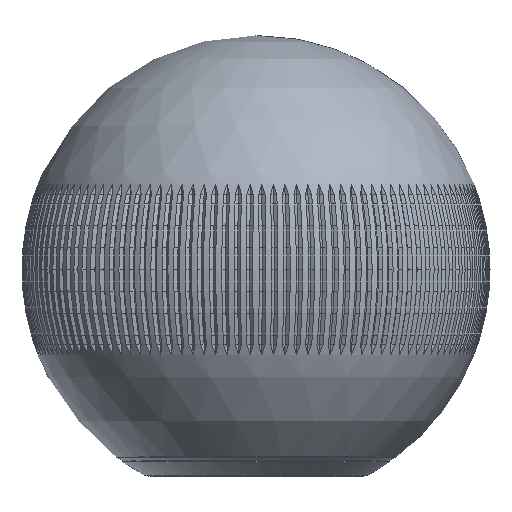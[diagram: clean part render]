
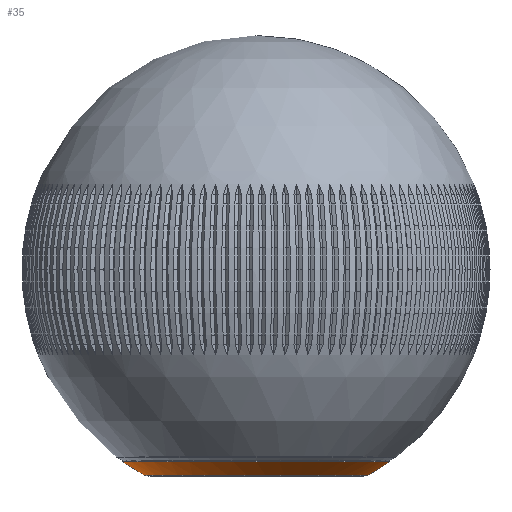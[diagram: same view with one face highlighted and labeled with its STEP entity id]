
A CAD part, front view. The second image highlights one B-rep face of the part: STEP entity #35.
In plain terms, the highlighted spherical face has radius 15 mm.
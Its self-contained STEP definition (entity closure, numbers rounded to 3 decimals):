
#35 = ADVANCED_FACE('',(#36),#51,.T.);
#36 = FACE_BOUND('',#37,.T.);
#37 = EDGE_LOOP('',(#38,#69,#165,#166));
#38 = ORIENTED_EDGE('',*,*,#39,.F.);
#39 = EDGE_CURVE('',#40,#42,#44,.T.);
#40 = VERTEX_POINT('',#41);
#41 = CARTESIAN_POINT('',(7.176,0.,0.095));
#42 = VERTEX_POINT('',#43);
#43 = CARTESIAN_POINT('',(8.567,0.,
    0.954));
#44 = SEAM_CURVE('',#45,(#50,#62),.PCURVE_S1.);
#45 = CIRCLE('',#46,15.);
#46 = AXIS2_PLACEMENT_3D('',#47,#48,#49);
#47 = CARTESIAN_POINT('',(0.,0.,13.266));
#48 = DIRECTION('',(0.,-1.,0.));
#49 = DIRECTION('',(1.,0.,0.));
#50 = PCURVE('',#51,#56);
#51 = SPHERICAL_SURFACE('',#52,15.);
#52 = AXIS2_PLACEMENT_3D('',#53,#54,#55);
#53 = CARTESIAN_POINT('',(0.,0.,13.266));
#54 = DIRECTION('',(0.,0.,1.));
#55 = DIRECTION('',(1.,0.,-0.));
#56 = DEFINITIONAL_REPRESENTATION('',(#57),#61);
#57 = LINE('',#58,#59);
#58 = CARTESIAN_POINT('',(0.,-6.283));
#59 = VECTOR('',#60,1.);
#60 = DIRECTION('',(0.,1.));
#61 = ( GEOMETRIC_REPRESENTATION_CONTEXT(2) 
PARAMETRIC_REPRESENTATION_CONTEXT() REPRESENTATION_CONTEXT('2D SPACE',''
  ) );
#62 = PCURVE('',#51,#63);
#63 = DEFINITIONAL_REPRESENTATION('',(#64),#68);
#64 = LINE('',#65,#66);
#65 = CARTESIAN_POINT('',(6.283,-6.283));
#66 = VECTOR('',#67,1.);
#67 = DIRECTION('',(0.,1.));
#68 = ( GEOMETRIC_REPRESENTATION_CONTEXT(2) 
PARAMETRIC_REPRESENTATION_CONTEXT() REPRESENTATION_CONTEXT('2D SPACE',''
  ) );
#69 = ORIENTED_EDGE('',*,*,#70,.T.);
#70 = EDGE_CURVE('',#40,#40,#71,.T.);
#71 = SURFACE_CURVE('',#72,(#93,#117),.PCURVE_S1.);
#72 = B_SPLINE_CURVE_WITH_KNOTS('',10,(#73,#74,#75,#76,#77,#78,#79,#80,
    #81,#82,#83,#84,#85,#86,#87,#88,#89,#90,#91,#92),.UNSPECIFIED.,.T.,
  .F.,(11,9,11),(0.,21.991,43.982),
  .UNSPECIFIED.);
#73 = CARTESIAN_POINT('',(7.176,0.,0.095));
#74 = CARTESIAN_POINT('',(7.176,2.222,
    0.095));
#75 = CARTESIAN_POINT('',(6.412,4.477,
    0.095));
#76 = CARTESIAN_POINT('',(4.845,6.45,
    0.095));
#77 = CARTESIAN_POINT('',(2.598,7.794,
    0.095));
#78 = CARTESIAN_POINT('',(-0.002,8.252,
    0.095));
#79 = CARTESIAN_POINT('',(-2.592,7.783,
    0.095));
#80 = CARTESIAN_POINT('',(-4.816,6.454,
    0.095));
#81 = CARTESIAN_POINT('',(-6.389,4.509,
    0.095));
#82 = CARTESIAN_POINT('',(-7.176,2.254,
    0.095));
#83 = CARTESIAN_POINT('',(-7.176,-2.254,
    0.095));
#84 = CARTESIAN_POINT('',(-6.389,-4.509,
    0.095));
#85 = CARTESIAN_POINT('',(-4.816,-6.454,
    0.095));
#86 = CARTESIAN_POINT('',(-2.592,-7.783,
    0.095));
#87 = CARTESIAN_POINT('',(-0.002,-8.252,
    0.095));
#88 = CARTESIAN_POINT('',(2.598,-7.794,
    0.095));
#89 = CARTESIAN_POINT('',(4.845,-6.45,
    0.095));
#90 = CARTESIAN_POINT('',(6.412,-4.477,
    0.095));
#91 = CARTESIAN_POINT('',(7.176,-2.222,
    0.095));
#92 = CARTESIAN_POINT('',(7.176,0.,
    0.095));
#93 = PCURVE('',#51,#94);
#94 = DEFINITIONAL_REPRESENTATION('',(#95),#116);
#95 = B_SPLINE_CURVE_WITH_KNOTS('',10,(#96,#97,#98,#99,#100,#101,#102,
    #103,#104,#105,#106,#107,#108,#109,#110,#111,#112,#113,#114,#115),
  .UNSPECIFIED.,.F.,.F.,(11,9,11),(0.,21.991,
    43.982),.UNSPECIFIED.);
#96 = CARTESIAN_POINT('',(0.,-1.072));
#97 = CARTESIAN_POINT('',(0.31,-1.072));
#98 = CARTESIAN_POINT('',(0.624,-1.072));
#99 = CARTESIAN_POINT('',(0.94,-1.072));
#100 = CARTESIAN_POINT('',(1.256,-1.072));
#101 = CARTESIAN_POINT('',(1.571,-1.072));
#102 = CARTESIAN_POINT('',(1.885,-1.072));
#103 = CARTESIAN_POINT('',(2.199,-1.072));
#104 = CARTESIAN_POINT('',(2.513,-1.072));
#105 = CARTESIAN_POINT('',(2.827,-1.072));
#106 = CARTESIAN_POINT('',(3.456,-1.072));
#107 = CARTESIAN_POINT('',(3.77,-1.072));
#108 = CARTESIAN_POINT('',(4.084,-1.072));
#109 = CARTESIAN_POINT('',(4.398,-1.072));
#110 = CARTESIAN_POINT('',(4.713,-1.072));
#111 = CARTESIAN_POINT('',(5.027,-1.072));
#112 = CARTESIAN_POINT('',(5.343,-1.072));
#113 = CARTESIAN_POINT('',(5.659,-1.072));
#114 = CARTESIAN_POINT('',(5.974,-1.072));
#115 = CARTESIAN_POINT('',(6.283,-1.072));
#116 = ( GEOMETRIC_REPRESENTATION_CONTEXT(2) 
PARAMETRIC_REPRESENTATION_CONTEXT() REPRESENTATION_CONTEXT('2D SPACE',''
  ) );
#117 = PCURVE('',#118,#159);
#118 = B_SPLINE_SURFACE_WITH_KNOTS('',1,10,(
    (#119,#120,#121,#122,#123,#124,#125,#126,#127,#128,#129,#130,#131
      ,#132,#133,#134,#135,#136,#137,#138)
    ,(#139,#140,#141,#142,#143,#144,#145,#146,#147,#148,#149,#150,#151
      ,#152,#153,#154,#155,#156,#157,#158
    )),.UNSPECIFIED.,.F.,.T.,.F.,(2,2),(11,9,11),(0.,43.982),(
    0.,21.991,43.982),.UNSPECIFIED.);
#119 = CARTESIAN_POINT('',(7.176,0.,0.095));
#120 = CARTESIAN_POINT('',(7.176,2.222,
    0.095));
#121 = CARTESIAN_POINT('',(6.412,4.477,
    0.095));
#122 = CARTESIAN_POINT('',(4.845,6.45,
    0.095));
#123 = CARTESIAN_POINT('',(2.598,7.794,
    0.095));
#124 = CARTESIAN_POINT('',(-0.002,8.252,
    0.095));
#125 = CARTESIAN_POINT('',(-2.592,7.783,
    0.095));
#126 = CARTESIAN_POINT('',(-4.816,6.454,
    0.095));
#127 = CARTESIAN_POINT('',(-6.389,4.509,
    0.095));
#128 = CARTESIAN_POINT('',(-7.176,2.254,
    0.095));
#129 = CARTESIAN_POINT('',(-7.176,-2.254,
    0.095));
#130 = CARTESIAN_POINT('',(-6.389,-4.509,
    0.095));
#131 = CARTESIAN_POINT('',(-4.816,-6.454,
    0.095));
#132 = CARTESIAN_POINT('',(-2.592,-7.783,
    0.095));
#133 = CARTESIAN_POINT('',(-0.002,-8.252,
    0.095));
#134 = CARTESIAN_POINT('',(2.598,-7.794,
    0.095));
#135 = CARTESIAN_POINT('',(4.845,-6.45,
    0.095));
#136 = CARTESIAN_POINT('',(6.412,-4.477,
    0.095));
#137 = CARTESIAN_POINT('',(7.176,-2.222,
    0.095));
#138 = CARTESIAN_POINT('',(7.176,0.,
    0.095));
#139 = CARTESIAN_POINT('',(6.8,0.,0.));
#140 = CARTESIAN_POINT('',(6.8,2.105,0.));
#141 = CARTESIAN_POINT('',(6.076,4.243,0.));
#142 = CARTESIAN_POINT('',(4.591,6.112,0.));
#143 = CARTESIAN_POINT('',(2.462,7.386,0.));
#144 = CARTESIAN_POINT('',(-0.002,7.819,0.));
#145 = CARTESIAN_POINT('',(-2.456,7.375,0.));
#146 = CARTESIAN_POINT('',(-4.563,6.116,0.));
#147 = CARTESIAN_POINT('',(-6.054,4.273,0.));
#148 = CARTESIAN_POINT('',(-6.8,2.136,0.));
#149 = CARTESIAN_POINT('',(-6.8,-2.136,0.));
#150 = CARTESIAN_POINT('',(-6.054,-4.273,0.));
#151 = CARTESIAN_POINT('',(-4.563,-6.116,0.));
#152 = CARTESIAN_POINT('',(-2.456,-7.375,0.));
#153 = CARTESIAN_POINT('',(-0.002,-7.819,0.));
#154 = CARTESIAN_POINT('',(2.462,-7.386,0.));
#155 = CARTESIAN_POINT('',(4.591,-6.112,0.));
#156 = CARTESIAN_POINT('',(6.076,-4.243,0.));
#157 = CARTESIAN_POINT('',(6.8,-2.105,0.));
#158 = CARTESIAN_POINT('',(6.8,0.,0.));
#159 = DEFINITIONAL_REPRESENTATION('',(#160),#164);
#160 = LINE('',#161,#162);
#161 = CARTESIAN_POINT('',(0.,0.));
#162 = VECTOR('',#163,1.);
#163 = DIRECTION('',(0.,1.));
#164 = ( GEOMETRIC_REPRESENTATION_CONTEXT(2) 
PARAMETRIC_REPRESENTATION_CONTEXT() REPRESENTATION_CONTEXT('2D SPACE',''
  ) );
#165 = ORIENTED_EDGE('',*,*,#39,.T.);
#166 = ORIENTED_EDGE('',*,*,#167,.F.);
#167 = EDGE_CURVE('',#42,#42,#168,.T.);
#168 = SURFACE_CURVE('',#169,(#174,#181),.PCURVE_S1.);
#169 = CIRCLE('',#170,8.567);
#170 = AXIS2_PLACEMENT_3D('',#171,#172,#173);
#171 = CARTESIAN_POINT('',(0.,0.,0.954));
#172 = DIRECTION('',(0.,0.,1.));
#173 = DIRECTION('',(0.,-1.,0.));
#174 = PCURVE('',#51,#175);
#175 = DEFINITIONAL_REPRESENTATION('',(#176),#180);
#176 = LINE('',#177,#178);
#177 = CARTESIAN_POINT('',(-1.571,-0.963));
#178 = VECTOR('',#179,1.);
#179 = DIRECTION('',(1.,0.));
#180 = ( GEOMETRIC_REPRESENTATION_CONTEXT(2) 
PARAMETRIC_REPRESENTATION_CONTEXT() REPRESENTATION_CONTEXT('2D SPACE',''
  ) );
#181 = PCURVE('',#182,#187);
#182 = CONICAL_SURFACE('',#183,8.933,1.064);
#183 = AXIS2_PLACEMENT_3D('',#184,#185,#186);
#184 = CARTESIAN_POINT('',(0.,0.,0.75));
#185 = DIRECTION('',(-0.,-0.,-1.));
#186 = DIRECTION('',(1.,0.,-0.));
#187 = DEFINITIONAL_REPRESENTATION('',(#188),#192);
#188 = LINE('',#189,#190);
#189 = CARTESIAN_POINT('',(1.571,-0.204));
#190 = VECTOR('',#191,1.);
#191 = DIRECTION('',(-1.,-0.));
#192 = ( GEOMETRIC_REPRESENTATION_CONTEXT(2) 
PARAMETRIC_REPRESENTATION_CONTEXT() REPRESENTATION_CONTEXT('2D SPACE',''
  ) );
